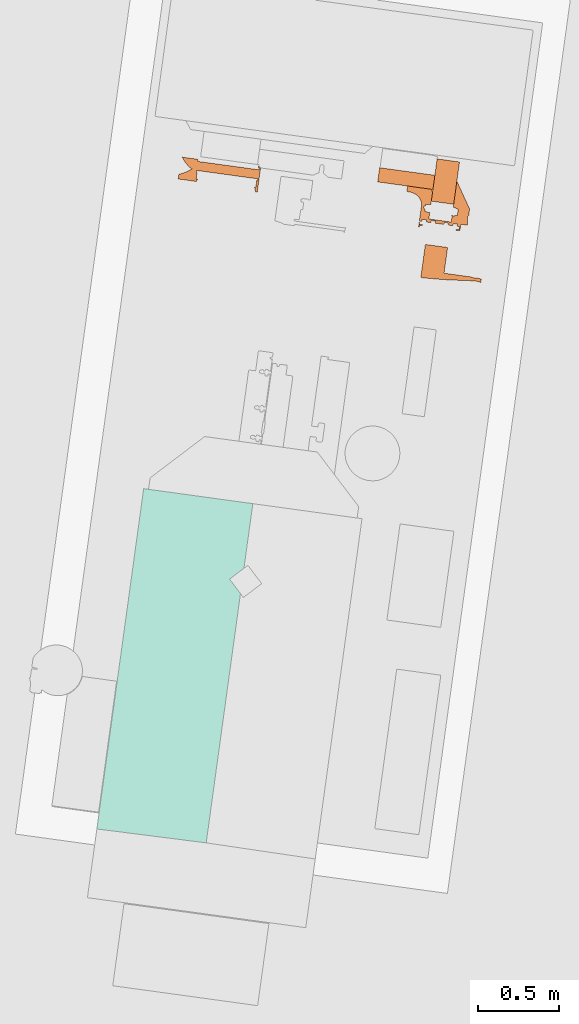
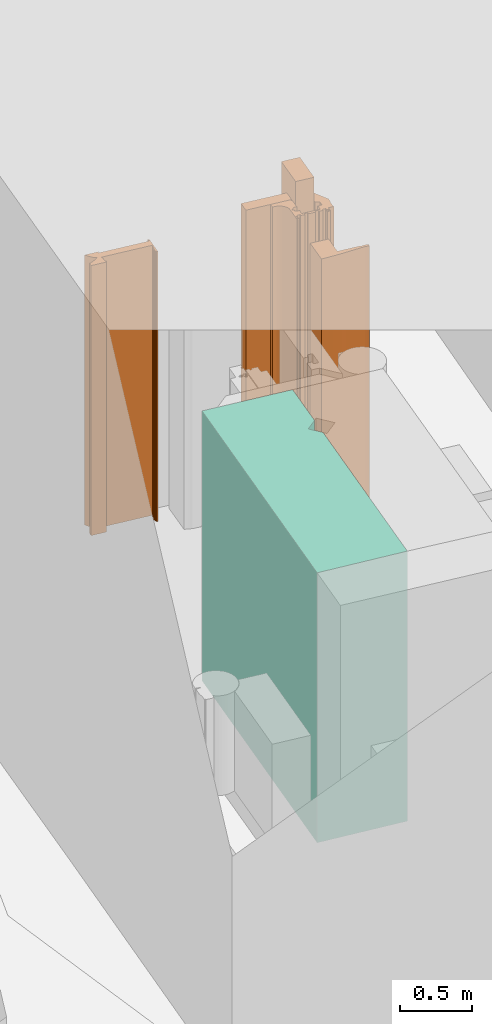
# Not in any storey, part 53 of 75: 5 proxies, plus 1 element that does not belong to this part.
"""IFC4 model written with IfcOpenShell, lengths in metres."""

from ifc_helpers import new_model, si_unit, direction, origin_with_axes, place, context, subcontext, project, spatial, triangles, element, aggregate, save


model = new_model("IFC4")

# Units and contexts
model_context = context("Model", 3, precision=1e-05, world=origin_with_axes(), true_north=direction((0.0, 1.0)))
body_context = subcontext(model_context, "Body", "Model", "MODEL_VIEW")
ifc_project = project(units=[si_unit("AREAUNIT", "SQUARE_METRE"), si_unit("VOLUMEUNIT", "CUBIC_METRE"), si_unit("LENGTHUNIT", "METRE")], contexts=[model_context])

# Site
site_placement = place(None, origin_with_axes())
site = spatial("IfcSite", under=ifc_project, at=site_placement, Name="Parcela industrial Jinhong")

# Compressor, proxies
compressor_placement = place(site_placement, origin_with_axes())
compressor = element("IfcCompressor", 1, at=compressor_placement, inside=site, Name="Compresor de aire AC1001B · Carcasa principal · región CAD 1", ObjectType="Envolvente de equipo", PredefinedType="USERDEFINED", context=body_context, shape_type="Tessellation", body=[
    triangles([(55.863177, 72.357937, 3.95), (55.187335, 72.450855, 3.95), (55.808192, 71.957999, 3.95), (55.187335, 72.450855, 1.65), (55.863177, 72.357937, 1.65), (55.808192, 71.957999, 1.65), (54.897683, 70.344073, 3.95), (55.574466, 70.257991, 3.95), (55.574466, 70.257991, 1.65), (54.897683, 70.344073, 1.65), (55.719055, 71.89041, 3.95), (55.786644, 71.801273, 3.95), (55.786644, 71.801273, 1.65), (55.719055, 71.89041, 1.65)], [[1, 2, 3], [4, 5, 6], [2, 7, 8], [9, 10, 4], [8, 12, 11], [13, 9, 14], [3, 2, 11], [4, 6, 14], [2, 8, 11], [14, 9, 4], [4, 10, 7], [4, 7, 2], [10, 9, 8], [10, 8, 7], [9, 13, 12], [9, 12, 8], [11, 13, 14], [11, 12, 13], [14, 6, 3], [14, 3, 11], [6, 5, 1], [1, 3, 6], [5, 4, 2], [5, 2, 1]], closed=True),
])
proxy_1_placement = place(compressor_placement, origin_with_axes())
proxy_1 = element("IfcBuildingElementProxy", 2, at=proxy_1_placement, Name="Compresor de aire AC1001B · Cuerpo de equipo · región CAD 26", context=body_context, shape_type="Tessellation", body=[
    triangles([(57.004136, 74.492425, 4.2), (56.968151, 74.230688, 4.2), (57.106747, 74.211633, 4.2), (57.004136, 74.492425, 1.65), (57.106747, 74.211633, 1.65), (56.968151, 74.230688, 1.65), (57.142732, 74.473371, 4.2), (57.142732, 74.473371, 1.65)], [[1, 2, 3], [4, 5, 6], [3, 7, 1], [5, 4, 8], [5, 8, 7], [5, 7, 3], [8, 4, 1], [8, 1, 7], [2, 4, 6], [4, 2, 1], [6, 5, 3], [6, 3, 2]], closed=True),
])
proxy_2_placement = place(compressor_placement, origin_with_axes())
proxy_2 = element("IfcBuildingElementProxy", 3, at=proxy_2_placement, Name="Compresor de aire AC1001B · Cuerpo de equipo · región CAD 27", context=body_context, shape_type="Tessellation", body=[
    triangles([(57.219332, 73.7611, 3.85), (57.047151, 73.784772, 3.85), (57.218755, 73.756907, 3.85), (57.047151, 73.784772, 1.65), (57.219332, 73.7611, 1.65), (57.218755, 73.756907, 1.65), (57.069039, 73.943974, 3.85), (56.931335, 73.962907, 3.85), (56.931335, 73.962907, 1.65), (57.069039, 73.943974, 1.65), (56.90311, 73.757613, 3.85), (56.995679, 73.748848, 3.85), (56.995679, 73.748848, 1.65), (56.90311, 73.757613, 1.65), (57.094125, 73.743186, 3.85), (57.063433, 73.743873, 3.85), (57.063433, 73.743873, 1.65), (57.094125, 73.743186, 1.65), (57.206597, 73.738221, 3.85), (57.147217, 73.740227, 3.85), (57.147217, 73.740227, 1.65), (57.206597, 73.738221, 1.65), (57.277565, 73.748551, 3.85), (57.259731, 73.732632, 3.85), (57.274588, 73.727273, 3.85), (57.259731, 73.732632, 1.65), (57.277565, 73.748551, 1.65), (57.274588, 73.727273, 1.65), (57.250992, 73.755508, 3.85), (57.247519, 73.755407, 3.85), (57.247519, 73.755407, 1.65), (57.250992, 73.755508, 1.65), (57.246315, 73.756252, 3.85), (57.246315, 73.756252, 1.65), (57.24171, 73.735917, 3.85), (57.24171, 73.735917, 1.65)], [[1, 2, 3], [4, 5, 6], [2, 7, 8], [9, 10, 4], [8, 11, 12], [13, 14, 9], [16, 15, 12], [17, 13, 18], [20, 19, 15], [21, 18, 22], [23, 24, 25], [26, 27, 28], [23, 29, 30], [31, 32, 27], [30, 33, 3], [6, 34, 31], [12, 2, 8], [4, 13, 9], [15, 19, 12], [18, 13, 22], [24, 23, 35], [36, 27, 26], [30, 3, 23], [27, 6, 31], [3, 2, 12], [13, 4, 6], [23, 19, 35], [36, 22, 27], [23, 3, 12], [13, 6, 27], [19, 23, 12], [22, 13, 27], [4, 10, 7], [4, 7, 2], [10, 9, 8], [10, 8, 7], [9, 14, 11], [9, 11, 8], [14, 13, 12], [14, 12, 11], [16, 13, 17], [16, 12, 13], [15, 17, 18], [15, 16, 17], [20, 18, 21], [20, 15, 18], [19, 21, 22], [19, 20, 21], [35, 22, 36], [35, 19, 22], [36, 26, 24], [36, 24, 35], [25, 26, 28], [26, 25, 24], [28, 27, 23], [23, 25, 28], [29, 27, 32], [29, 23, 27], [32, 31, 30], [32, 30, 29], [33, 31, 34], [33, 30, 31], [34, 6, 3], [34, 3, 33], [6, 5, 1], [1, 3, 6], [5, 4, 2], [5, 2, 1]], closed=True),
])
proxy_3_placement = place(compressor_placement, origin_with_axes())
proxy_3 = element("IfcBuildingElementProxy", 4, at=proxy_3_placement, Name="Compresor de aire AC1001B · Cuerpo de equipo · región CAD 28", context=body_context, shape_type="Tessellation", body=[
    triangles([(57.043976, 74.08692, 4.0), (56.995192, 74.096252, 4.0), (56.994838, 74.093676, 4.0), (56.995192, 74.096252, 1.65), (57.043976, 74.08692, 1.65), (56.994838, 74.093676, 1.65), (57.049227, 74.099421, 4.0), (57.04433, 74.089496, 4.0), (57.047797, 74.089019, 4.0), (57.049227, 74.099421, 1.65), (57.047797, 74.089019, 1.65), (57.04433, 74.089496, 1.65), (57.073301, 74.096112, 4.0), (57.071871, 74.085709, 4.0), (57.074446, 74.085355, 4.0), (57.073301, 74.096112, 1.65), (57.074446, 74.085355, 1.65), (57.071871, 74.085709, 1.65), (57.100742, 74.079116, 4.0), (57.074092, 74.08278, 4.0), (57.074092, 74.08278, 1.65), (57.100742, 74.079116, 1.65), (57.103893, 74.082215, 4.0), (57.101096, 74.081691, 4.0), (57.103771, 74.081324, 4.0), (57.101096, 74.081691, 1.65), (57.103893, 74.082215, 1.65), (57.103771, 74.081324, 1.65), (57.129651, 74.078674, 4.0), (57.127967, 74.078906, 4.0), (57.127844, 74.078014, 4.0), (57.127967, 74.078906, 1.65), (57.129651, 74.078674, 1.65), (57.127844, 74.078014, 1.65), (57.142945, 74.073313, 4.0), (57.13042, 74.07766, 4.0), (57.130066, 74.075084, 4.0), (57.13042, 74.07766, 1.65), (57.142945, 74.073313, 1.65), (57.130066, 74.075084, 1.65), (57.140343, 74.054391, 4.0), (57.120529, 74.057115, 4.0), (57.119699, 74.051072, 4.0), (57.120529, 74.057115, 1.65), (57.140343, 74.054391, 1.65), (57.119699, 74.051072, 1.65), (57.192821, 74.135802, 4.0), (57.151126, 74.088036, 4.0), (57.190753, 74.082588, 4.0), (57.192821, 74.135802, 1.65), (57.190753, 74.082588, 1.65), (57.151126, 74.088036, 1.65), (57.205374, 74.182326, 4.0), (57.194981, 74.139038, 4.0), (57.199695, 74.141015, 4.0), (57.205374, 74.182326, 1.65), (57.199695, 74.141015, 1.65), (57.194981, 74.139038, 1.65), (57.126401, 74.354588, 4.0), (57.104023, 74.191819, 4.0), (57.104023, 74.191819, 1.65), (57.126401, 74.354588, 1.65), (57.101447, 74.192173, 4.0), (57.101338, 74.191381, 4.0), (57.101338, 74.191381, 1.65), (57.101447, 74.192173, 1.65), (57.132037, 74.159906, 4.0), (57.134091, 74.18072, 4.0), (57.132198, 74.16695, 4.0), (57.134091, 74.18072, 1.65), (57.132037, 74.159906, 1.65), (57.132198, 74.16695, 1.65), (57.128875, 74.142777, 4.0), (57.130782, 74.156647, 4.0), (57.130782, 74.156647, 1.65), (57.128875, 74.142777, 1.65), (57.107352, 74.13968, 4.0), (57.094473, 74.14145, 4.0), (57.093997, 74.137983, 4.0), (57.094473, 74.14145, 1.65), (57.107352, 74.13968, 1.65), (57.093997, 74.137983, 1.65), (57.093263, 74.113555, 4.0), (57.091479, 74.1138, 4.0), (57.093018, 74.111772, 4.0), (57.091479, 74.1138, 1.65), (57.093263, 74.113555, 1.65), (57.093018, 74.111772, 1.65), (56.956351, 74.132379, 4.0), (56.954666, 74.13261, 4.0), (56.954421, 74.130827, 4.0), (56.954666, 74.13261, 1.65), (56.956351, 74.132379, 1.65), (56.954421, 74.130827, 1.65), (56.961029, 74.159797, 4.0), (56.957976, 74.156684, 4.0), (56.960552, 74.15633, 4.0), (56.961029, 74.159797, 1.65), (56.960552, 74.15633, 1.65), (56.957976, 74.156684, 1.65), (56.9288, 74.180883, 4.0), (56.927909, 74.181006, 4.0), (56.92737, 74.170481, 4.0), (56.927909, 74.181006, 1.65), (56.9288, 74.180883, 1.65), (56.92737, 74.170481, 1.65), (56.925687, 74.183936, 4.0), (56.924003, 74.184167, 4.0), (56.924003, 74.184167, 1.65), (56.925687, 74.183936, 1.65), (56.922574, 74.186988, 4.0), (56.920121, 74.188234, 4.0), (56.920121, 74.188234, 1.65), (56.922574, 74.186988, 1.65), (56.92625, 74.200513, 4.0), (56.920513, 74.196962, 4.0), (56.923198, 74.1974, 4.0), (56.920513, 74.196962, 1.65), (56.92625, 74.200513, 1.65), (56.923198, 74.1974, 1.65), (56.932587, 74.208424, 4.0), (56.931402, 74.199805, 4.0), (56.931402, 74.199805, 1.65), (56.932587, 74.208424, 1.65), (56.967111, 74.210642, 4.0), (56.954123, 74.211621, 4.0), (56.967002, 74.20985, 4.0), (56.954123, 74.211621, 1.65), (56.967111, 74.210642, 1.65), (56.967002, 74.20985, 1.65), (56.966007, 74.304669, 4.0), (56.965427, 74.210874, 4.0), (56.976091, 74.288444, 4.0), (56.966007, 74.304669, 1.65), (56.976091, 74.288444, 1.65), (56.965427, 74.210874, 1.65), (56.821368, 74.324555, 4.0), (56.816642, 74.290178, 4.0), (56.816642, 74.290178, 1.65), (56.821368, 74.324555, 1.65), (56.895904, 74.081841, 4.0), (56.889213, 74.071354, 4.0), (56.894365, 74.070646, 4.0), (56.895904, 74.081841, 1.65), (56.894365, 74.070646, 1.65), (56.889213, 74.071354, 1.65), (56.913081, 74.085637, 4.0), (56.91225, 74.079593, 4.0), (56.91225, 74.079593, 1.65), (56.913081, 74.085637, 1.65), (56.909102, 74.108088, 4.0), (56.895869, 74.107283, 4.0), (56.908748, 74.105512, 4.0), (56.895869, 74.107283, 1.65), (56.909102, 74.108088, 1.65), (56.908748, 74.105512, 1.65), (56.9118, 74.108625, 4.0), (56.911678, 74.107734, 4.0), (56.911678, 74.107734, 1.65), (56.9118, 74.108625, 1.65), (56.937657, 74.10507, 4.0), (56.935973, 74.105302, 4.0), (56.93585, 74.10441, 4.0), (56.935973, 74.105302, 1.65), (56.937657, 74.10507, 1.65), (56.93585, 74.10441, 1.65), (56.964721, 74.097816, 4.0), (56.938426, 74.104056, 4.0), (56.938072, 74.10148, 4.0), (56.938426, 74.104056, 1.65), (56.964721, 74.097816, 1.65), (56.938072, 74.10148, 1.65), (56.967774, 74.10093, 4.0), (56.965075, 74.100392, 4.0), (56.967651, 74.100038, 4.0), (56.965075, 74.100392, 1.65), (56.967774, 74.10093, 1.65), (56.967651, 74.100038, 1.65), (56.993254, 74.107117, 4.0), (56.993131, 74.106225, 4.0), (56.994693, 74.105102, 4.0), (56.993254, 74.107117, 1.65), (56.994693, 74.105102, 1.65), (56.993131, 74.106225, 1.65), (56.99363, 74.097375, 4.0), (56.991946, 74.097606, 4.0), (56.991824, 74.096715, 4.0), (56.991946, 74.097606, 1.65), (56.99363, 74.097375, 1.65), (56.991824, 74.096715, 1.65), (57.103001, 74.082338, 4.0), (57.103001, 74.082338, 1.65), (57.145555, 74.047517, 4.0), (57.145555, 74.047517, 1.65), (57.096572, 74.137629, 4.0), (57.096572, 74.137629, 1.65), (56.947258, 74.16169, 4.0), (56.947258, 74.16169, 1.65), (56.847527, 74.285023, 4.0), (56.847527, 74.285023, 1.65), (56.893267, 74.088361, 4.0), (56.893267, 74.088361, 1.65), (56.966981, 74.101039, 4.0), (56.966981, 74.101039, 1.65), (57.104064, 74.090065, 4.0), (57.104064, 74.090065, 1.65), (57.130713, 74.086401, 4.0), (57.130713, 74.086401, 1.65), (57.114217, 74.18961, 4.0), (57.114217, 74.18961, 1.65), (56.864057, 74.277502, 4.0), (56.864057, 74.277502, 1.65), (56.910116, 74.108857, 4.0), (56.910116, 74.108857, 1.65), (56.938719, 74.112798, 4.0), (56.938719, 74.112798, 1.65), (56.918791, 74.191041, 4.0), (56.918791, 74.191041, 1.65), (56.878449, 74.26765, 4.0), (56.878449, 74.26765, 1.65), (56.907097, 74.201431, 4.0), (56.907097, 74.201431, 1.65), (56.911178, 74.116584, 4.0), (56.911178, 74.116584, 1.65), (57.105201, 74.091726, 4.0), (57.105201, 74.091726, 1.65), (56.953005, 74.120524, 4.0), (56.953005, 74.120524, 1.65), (56.89002, 74.256369, 4.0), (56.89002, 74.256369, 1.65), (56.913108, 74.118136, 4.0), (56.913108, 74.118136, 1.65), (56.93728, 74.114812, 4.0), (56.93728, 74.114812, 1.65), (57.128383, 74.088539, 4.0), (57.128383, 74.088539, 1.65), (57.091601, 74.101469, 4.0), (57.091601, 74.101469, 1.65), (56.899553, 74.242743, 4.0), (56.899553, 74.242743, 1.65), (56.968043, 74.108766, 4.0), (56.968043, 74.108766, 1.65), (56.908098, 74.215324, 4.0), (56.908098, 74.215324, 1.65), (56.969973, 74.110318, 4.0), (56.969973, 74.110318, 1.65), (56.90484, 74.229803, 4.0), (56.90484, 74.229803, 1.65)], [[1, 2, 3], [4, 5, 6], [7, 8, 9], [10, 11, 12], [13, 14, 15], [16, 17, 18], [20, 19, 15], [21, 17, 22], [23, 24, 25], [26, 27, 28], [29, 30, 31], [32, 33, 34], [35, 36, 37], [38, 39, 40], [41, 42, 43], [44, 45, 46], [47, 48, 49], [50, 51, 52], [53, 54, 55], [56, 57, 58], [60, 53, 59], [62, 56, 61], [60, 63, 64], [65, 66, 61], [67, 68, 69], [70, 71, 72], [74, 73, 67], [75, 71, 76], [77, 78, 79], [80, 81, 82], [83, 84, 85], [86, 87, 88], [89, 90, 91], [92, 93, 94], [95, 96, 97], [98, 99, 100], [101, 102, 103], [104, 105, 106], [102, 107, 108], [109, 110, 104], [108, 111, 112], [113, 114, 109], [115, 116, 117], [118, 119, 120], [115, 122, 121], [123, 119, 124], [125, 126, 127], [128, 129, 130], [131, 132, 133], [134, 135, 136], [131, 137, 138], [139, 140, 134], [141, 142, 143], [144, 145, 146], [148, 147, 141], [149, 144, 150], [151, 152, 153], [154, 155, 156], [158, 157, 151], [159, 155, 160], [161, 162, 163], [164, 165, 166], [167, 168, 169], [170, 171, 172], [173, 174, 175], [176, 177, 178], [179, 180, 181], [182, 183, 184], [185, 186, 187], [188, 189, 190], [8, 2, 1], [5, 4, 12], [15, 19, 13], [17, 16, 22], [23, 191, 24], [26, 192, 27], [29, 31, 36], [34, 33, 38], [41, 43, 193], [46, 45, 194], [54, 48, 47], [52, 58, 50], [53, 60, 64], [65, 61, 56], [77, 79, 195], [82, 81, 196], [96, 95, 197], [100, 198, 98], [103, 102, 108], [106, 109, 104], [121, 116, 115], [119, 118, 124], [132, 126, 125], [129, 128, 136], [131, 138, 199], [200, 139, 134], [141, 147, 201], [202, 150, 144], [157, 152, 151], [155, 154, 160], [161, 163, 168], [166, 165, 170], [174, 168, 167], [171, 170, 176], [173, 203, 174], [176, 204, 177], [2, 185, 187], [190, 189, 4], [8, 7, 2], [12, 4, 10], [19, 24, 13], [22, 16, 26], [24, 191, 205], [206, 192, 26], [207, 29, 36], [38, 33, 208], [35, 41, 193], [194, 45, 39], [48, 54, 53], [58, 52, 56], [53, 64, 209], [210, 65, 56], [77, 195, 73], [81, 76, 196], [90, 96, 197], [198, 100, 92], [108, 112, 103], [109, 106, 113], [126, 132, 131], [136, 128, 134], [131, 199, 211], [212, 200, 134], [201, 142, 141], [202, 144, 146], [157, 213, 152], [154, 214, 160], [215, 161, 168], [170, 165, 216], [174, 203, 168], [176, 170, 204], [185, 2, 181], [4, 189, 183], [24, 205, 13], [26, 16, 206], [36, 35, 207], [208, 39, 38], [35, 193, 48], [52, 194, 39], [68, 53, 209], [70, 210, 56], [83, 73, 195], [87, 196, 76], [197, 91, 90], [94, 198, 92], [112, 217, 103], [113, 106, 218], [121, 126, 131], [134, 128, 124], [131, 211, 219], [220, 212, 134], [201, 221, 142], [202, 146, 222], [213, 223, 152], [214, 154, 224], [203, 215, 168], [170, 216, 204], [7, 181, 2], [4, 183, 10], [205, 225, 13], [206, 16, 226], [48, 207, 35], [39, 208, 52], [48, 53, 68], [70, 56, 52], [73, 83, 85], [87, 76, 88], [197, 227, 91], [94, 228, 198], [116, 121, 131], [134, 124, 118], [131, 219, 229], [230, 220, 134], [221, 201, 152], [154, 202, 222], [223, 231, 152], [224, 154, 232], [215, 203, 233], [216, 234, 204], [181, 7, 179], [183, 182, 10], [207, 48, 235], [208, 236, 52], [67, 48, 68], [70, 52, 71], [73, 85, 237], [238, 88, 76], [227, 197, 103], [106, 198, 228], [131, 229, 239], [240, 230, 134], [152, 231, 221], [232, 154, 222], [203, 241, 233], [234, 242, 204], [235, 48, 225], [226, 52, 236], [73, 48, 67], [52, 76, 71], [116, 131, 239], [240, 134, 118], [231, 243, 221], [222, 244, 232], [241, 245, 233], [242, 234, 246], [48, 13, 225], [226, 16, 52], [237, 48, 73], [52, 238, 76], [116, 239, 247], [248, 240, 118], [243, 231, 233], [234, 232, 244], [13, 48, 7], [16, 10, 52], [227, 48, 237], [238, 52, 228], [217, 116, 247], [248, 118, 218], [243, 233, 247], [244, 248, 234], [48, 179, 7], [10, 182, 52], [217, 247, 233], [234, 248, 218], [179, 48, 245], [182, 246, 52], [103, 217, 233], [234, 218, 106], [245, 48, 233], [234, 52, 246], [103, 233, 227], [228, 234, 106], [48, 227, 233], [234, 228, 52], [6, 5, 1], [1, 3, 6], [5, 12, 8], [5, 8, 1], [12, 11, 9], [12, 9, 8], [11, 10, 7], [7, 9, 11], [13, 10, 16], [13, 7, 10], [14, 16, 18], [16, 14, 13], [18, 17, 15], [18, 15, 14], [17, 21, 20], [17, 20, 15], [19, 21, 22], [19, 20, 21], [22, 26, 24], [22, 24, 19], [25, 26, 28], [26, 25, 24], [28, 27, 23], [23, 25, 28], [191, 27, 192], [191, 23, 27], [192, 206, 205], [192, 205, 191], [206, 226, 225], [206, 225, 205], [235, 226, 236], [235, 225, 226], [236, 208, 207], [236, 207, 235], [208, 33, 29], [208, 29, 207], [33, 32, 30], [33, 30, 29], [31, 32, 34], [32, 31, 30], [36, 34, 38], [36, 31, 34], [37, 38, 40], [38, 37, 36], [40, 39, 35], [35, 37, 40], [39, 45, 41], [39, 41, 35], [45, 44, 42], [45, 42, 41], [43, 44, 46], [44, 43, 42], [193, 46, 194], [193, 43, 46], [194, 52, 48], [194, 48, 193], [52, 51, 49], [52, 49, 48], [51, 50, 47], [47, 49, 51], [50, 58, 54], [50, 54, 47], [58, 57, 55], [58, 55, 54], [57, 56, 53], [53, 55, 57], [56, 62, 59], [56, 59, 53], [62, 61, 60], [62, 60, 59], [63, 61, 66], [63, 60, 61], [66, 65, 64], [66, 64, 63], [209, 65, 210], [209, 64, 65], [210, 70, 68], [210, 68, 209], [69, 70, 72], [70, 69, 68], [72, 71, 67], [67, 69, 72], [71, 75, 74], [71, 74, 67], [73, 75, 76], [73, 74, 75], [77, 76, 81], [77, 73, 76], [81, 80, 78], [81, 78, 77], [79, 80, 82], [80, 79, 78], [195, 82, 196], [195, 79, 82], [196, 87, 83], [196, 83, 195], [87, 86, 84], [87, 84, 83], [85, 86, 88], [86, 85, 84], [88, 238, 237], [88, 237, 85], [238, 228, 227], [238, 227, 237], [228, 94, 91], [228, 91, 227], [94, 93, 89], [89, 91, 94], [93, 92, 90], [93, 90, 89], [92, 100, 96], [92, 96, 90], [100, 99, 97], [100, 97, 96], [99, 98, 95], [95, 97, 99], [197, 98, 198], [197, 95, 98], [198, 106, 103], [198, 103, 197], [106, 105, 101], [101, 103, 106], [105, 104, 102], [105, 102, 101], [104, 110, 107], [104, 107, 102], [110, 109, 108], [110, 108, 107], [109, 114, 111], [109, 111, 108], [114, 113, 112], [114, 112, 111], [113, 218, 217], [113, 217, 112], [218, 118, 116], [218, 116, 217], [117, 118, 120], [118, 117, 116], [120, 119, 115], [115, 117, 120], [122, 119, 123], [122, 115, 119], [121, 123, 124], [121, 122, 123], [126, 124, 128], [126, 121, 124], [127, 128, 130], [128, 127, 126], [130, 129, 125], [125, 127, 130], [132, 129, 136], [132, 125, 129], [136, 135, 133], [136, 133, 132], [135, 134, 131], [131, 133, 135], [137, 134, 140], [137, 131, 134], [140, 139, 138], [140, 138, 137], [199, 139, 200], [199, 138, 139], [211, 200, 212], [211, 199, 200], [219, 212, 220], [219, 211, 212], [229, 220, 230], [229, 219, 220], [230, 240, 239], [230, 239, 229], [240, 248, 247], [240, 247, 239], [248, 244, 243], [248, 243, 247], [244, 222, 221], [244, 221, 243], [222, 146, 142], [222, 142, 221], [146, 145, 143], [146, 143, 142], [145, 144, 141], [141, 143, 145], [148, 144, 149], [148, 141, 144], [147, 149, 150], [147, 148, 149], [201, 150, 202], [201, 147, 150], [202, 154, 152], [202, 152, 201], [153, 154, 156], [154, 153, 152], [156, 155, 151], [151, 153, 156], [158, 155, 159], [158, 151, 155], [157, 159, 160], [157, 158, 159], [213, 160, 214], [213, 157, 160], [214, 224, 223], [214, 223, 213], [231, 224, 232], [231, 223, 224], [233, 232, 234], [233, 231, 232], [234, 216, 215], [234, 215, 233], [216, 165, 161], [216, 161, 215], [165, 164, 162], [165, 162, 161], [163, 164, 166], [164, 163, 162], [168, 166, 170], [168, 163, 166], [169, 170, 172], [170, 169, 168], [172, 171, 167], [167, 169, 172], [171, 176, 174], [171, 174, 167], [175, 176, 178], [176, 175, 174], [178, 177, 173], [173, 175, 178], [203, 177, 204], [203, 173, 177], [204, 242, 241], [204, 241, 203], [245, 242, 246], [245, 241, 242], [246, 182, 179], [246, 179, 245], [180, 182, 184], [182, 180, 179], [184, 183, 181], [184, 181, 180], [183, 189, 185], [183, 185, 181], [189, 188, 186], [189, 186, 185], [187, 188, 190], [188, 187, 186], [190, 4, 2], [190, 2, 187], [3, 4, 6], [4, 3, 2]], closed=True),
])
proxy_4_placement = place(compressor_placement, origin_with_axes())
proxy_4 = element("IfcBuildingElementProxy", 5, at=proxy_4_placement, Name="Compresor de aire AC1001B · Cuerpo de equipo · región CAD 29", context=body_context, shape_type="Tessellation", body=[
    triangles([(55.890525, 74.285879, 3.95), (55.879501, 74.295268, 3.95), (55.88045, 74.287264, 3.95), (55.879501, 74.295268, 1.65), (55.890525, 74.285879, 1.65), (55.88045, 74.287264, 1.65), (55.911242, 74.436561, 3.95), (55.899671, 74.447842, 3.95), (55.898131, 74.436648, 3.95), (55.899671, 74.447842, 1.65), (55.911242, 74.436561, 1.65), (55.898131, 74.436648, 1.65), (55.528938, 74.489122, 3.95), (55.524447, 74.488024, 3.95), (55.528707, 74.487438, 3.95), (55.524447, 74.488024, 1.65), (55.528938, 74.489122, 1.65), (55.528707, 74.487438, 1.65), (55.42561, 74.503328, 3.95), (55.441199, 74.475748, 3.95), (55.441199, 74.475748, 1.65), (55.42561, 74.503328, 1.65), (55.475317, 74.436839, 3.95), (55.461303, 74.450172, 3.95), (55.461303, 74.450172, 1.65), (55.475317, 74.436839, 1.65), (55.488734, 74.43237, 3.95), (55.483459, 74.432186, 3.95), (55.483459, 74.432186, 1.65), (55.488734, 74.43237, 1.65), (55.437786, 74.406871, 3.95), (55.419585, 74.4015, 3.95), (55.419108, 74.398033, 3.95), (55.419585, 74.4015, 1.65), (55.437786, 74.406871, 1.65), (55.419108, 74.398033, 1.65), (55.412173, 74.398986, 3.95), (55.405106, 74.398242, 3.95), (55.405106, 74.398242, 1.65), (55.412173, 74.398986, 1.65), (55.514596, 74.352503, 3.95), (55.400965, 74.368125, 3.95), (55.400965, 74.368125, 1.65), (55.514596, 74.352503, 1.65), (55.520981, 74.367372, 3.95), (55.516013, 74.362806, 3.95), (55.520273, 74.36222, 3.95), (55.516013, 74.362806, 1.65), (55.520981, 74.367372, 1.65), (55.520273, 74.36222, 1.65), (55.51781, 74.408184, 3.95), (55.51355, 74.408769, 3.95), (55.512362, 74.368557, 3.95), (55.51355, 74.408769, 1.65), (55.51781, 74.408184, 1.65), (55.512362, 74.368557, 1.65), (55.892387, 74.356685, 3.95), (55.887235, 74.357393, 3.95), (55.881787, 74.317766, 3.95), (55.887235, 74.357393, 1.65), (55.892387, 74.356685, 1.65), (55.881787, 74.317766, 1.65), (55.873168, 74.318951, 3.95), (55.87246, 74.3138, 3.95), (55.87246, 74.3138, 1.65), (55.873168, 74.318951, 1.65), (55.8754, 74.299834, 3.95), (55.87672, 74.313214, 3.95), (55.87672, 74.313214, 1.65), (55.8754, 74.299834, 1.65), (55.903283, 74.43594, 3.95), (55.903283, 74.43594, 1.65), (55.455539, 74.414121, 3.95), (55.455539, 74.414121, 1.65), (55.901744, 74.424745, 3.95), (55.901744, 74.424745, 1.65), (55.522908, 74.476829, 3.95), (55.522908, 74.476829, 1.65), (55.47241, 74.422299, 3.95), (55.47241, 74.422299, 1.65), (55.894048, 74.368771, 3.95), (55.894048, 74.368771, 1.65), (55.515212, 74.420856, 3.95), (55.515212, 74.420856, 1.65)], [[1, 2, 3], [4, 5, 6], [7, 8, 9], [10, 11, 12], [13, 14, 15], [16, 17, 18], [13, 19, 20], [21, 22, 17], [24, 23, 20], [25, 21, 26], [28, 27, 23], [29, 26, 30], [31, 32, 33], [34, 35, 36], [33, 37, 38], [39, 40, 36], [42, 41, 38], [43, 39, 44], [45, 46, 47], [48, 49, 50], [51, 52, 53], [54, 55, 56], [57, 58, 59], [60, 61, 62], [59, 63, 64], [65, 66, 62], [67, 2, 68], [4, 70, 69], [7, 2, 1], [5, 4, 11], [7, 9, 71], [12, 11, 72], [14, 13, 20], [16, 21, 17], [23, 27, 20], [26, 21, 30], [33, 73, 31], [74, 36, 35], [41, 33, 38], [39, 36, 44], [46, 45, 53], [48, 56, 49], [59, 64, 68], [69, 65, 62], [7, 71, 75], [76, 72, 11], [77, 14, 20], [21, 16, 78], [41, 73, 33], [44, 36, 74], [41, 46, 53], [56, 48, 44], [59, 68, 2], [4, 69, 62], [75, 77, 20], [21, 78, 76], [79, 73, 41], [44, 74, 80], [59, 2, 57], [62, 61, 4], [27, 75, 20], [30, 21, 76], [41, 27, 79], [44, 80, 30], [57, 2, 7], [11, 4, 61], [27, 41, 53], [56, 44, 30], [81, 57, 7], [11, 61, 82], [53, 52, 27], [56, 30, 54], [75, 81, 7], [76, 11, 82], [52, 83, 27], [54, 30, 84], [81, 75, 83], [82, 84, 76], [75, 27, 83], [84, 30, 76], [5, 11, 7], [5, 7, 1], [11, 10, 8], [11, 8, 7], [9, 10, 12], [10, 9, 8], [71, 12, 72], [71, 9, 12], [72, 76, 75], [72, 75, 71], [77, 76, 78], [77, 75, 76], [78, 16, 14], [78, 14, 77], [15, 16, 18], [16, 15, 14], [18, 17, 13], [13, 15, 18], [19, 17, 22], [19, 13, 17], [22, 21, 20], [22, 20, 19], [21, 25, 24], [21, 24, 20], [23, 25, 26], [23, 24, 25], [28, 26, 29], [28, 23, 26], [27, 29, 30], [27, 28, 29], [79, 30, 80], [79, 27, 30], [80, 74, 73], [80, 73, 79], [74, 35, 31], [74, 31, 73], [35, 34, 32], [35, 32, 31], [33, 34, 36], [34, 33, 32], [37, 36, 40], [37, 33, 36], [40, 39, 38], [40, 38, 37], [39, 43, 42], [39, 42, 38], [41, 43, 44], [41, 42, 43], [44, 48, 46], [44, 46, 41], [47, 48, 50], [48, 47, 46], [50, 49, 45], [45, 47, 50], [53, 49, 56], [53, 45, 49], [56, 55, 51], [51, 53, 56], [55, 54, 52], [55, 52, 51], [54, 84, 83], [54, 83, 52], [84, 82, 81], [84, 81, 83], [82, 61, 57], [82, 57, 81], [61, 60, 58], [61, 58, 57], [59, 60, 62], [60, 59, 58], [63, 62, 66], [63, 59, 62], [66, 65, 64], [66, 64, 63], [68, 65, 69], [68, 64, 65], [67, 69, 70], [67, 68, 69], [70, 4, 2], [70, 2, 67], [3, 4, 6], [4, 3, 2], [6, 5, 1], [1, 3, 6]], closed=True),
])
proxy_5_placement = place(compressor_placement, origin_with_axes())
proxy_5 = element("IfcBuildingElementProxy", 6, at=proxy_5_placement, Name="Compresor de aire AC1001B · Cuerpo de equipo · región CAD 35", context=body_context, shape_type="Tessellation", body=[
    triangles([(56.990175, 74.390881, 4.0), (56.648291, 74.437885, 4.0), (56.978093, 74.303007, 4.0), (56.648291, 74.437885, 1.65), (56.990175, 74.390881, 1.65), (56.978093, 74.303007, 1.65), (56.63621, 74.350011, 4.0), (56.63621, 74.350011, 1.65)], [[1, 2, 3], [4, 5, 6], [3, 2, 7], [8, 4, 6], [4, 8, 7], [4, 7, 2], [8, 6, 3], [8, 3, 7], [6, 5, 1], [1, 3, 6], [5, 4, 2], [5, 2, 1]], closed=True),
])
aggregate(compressor, [proxy_1, proxy_2, proxy_3, proxy_4, proxy_5])

save(model, "model.ifc")
